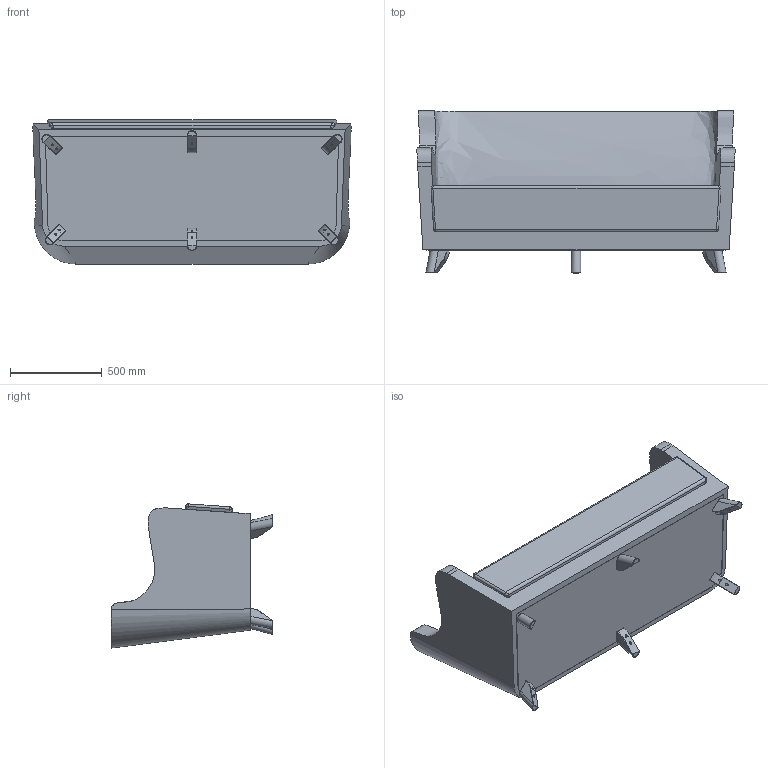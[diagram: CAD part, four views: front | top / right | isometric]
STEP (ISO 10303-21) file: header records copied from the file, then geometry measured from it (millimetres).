
FILE_DESCRIPTION(/* description */ (''),/* implementation_level */ '2;1');
FILE_NAME(/* name */ 'S:\DRAWINGS\DRAWING OFFICE ONLY\WIP\1306 Purl 3-Seater\1PU-0002 - Purl Plus Low Back Anti Stash 3 Seater\1PU-0002 SIMPLIFIED\1PU-0002 - Purl Plus Low Back 3 Seater Anti Stash_SIMPLFIED.STEP',/* time_stamp */ '2025-09-24T14:28:21+01:00',/* author */ ('Mark.Glazzard'),/* organization */ (''),/* preprocessor_version */ 'ST-DEVELOPER v18.1',/* originating_system */ 'Autodesk Inventor 2022',/* authorisation */ '');
FILE_SCHEMA (('AUTOMOTIVE_DESIGN { 1 0 10303 214 3 1 1 }'));
Length unit declared in the file: inch
Products named in the file (1): 1PU-0002 - Purl Plus Low Back 3 Seater Anti Stash - Simplified
Bounding box: 1734.31 x 883 x 786.38 mm (x, y, z)
Volume: 533444280.7 mm3; surface area: 10379618.4 mm2
Topology: 9 solids, 9 shells, 226 faces, 555 edges, 313 vertices
Faces by surface type: cylinder 76, bspline 61, plane 53, sphere 24, torus 12
Full cylindrical faces by diameter (mm): 10 x12
Entity records: 13257 total; most frequent: CARTESIAN_POINT 8054, ORIENTED_EDGE 1054, DIRECTION 1012, EDGE_CURVE 527, AXIS2_PLACEMENT_3D 416, VERTEX_POINT 313, EDGE_LOOP 244, STYLED_ITEM 235
